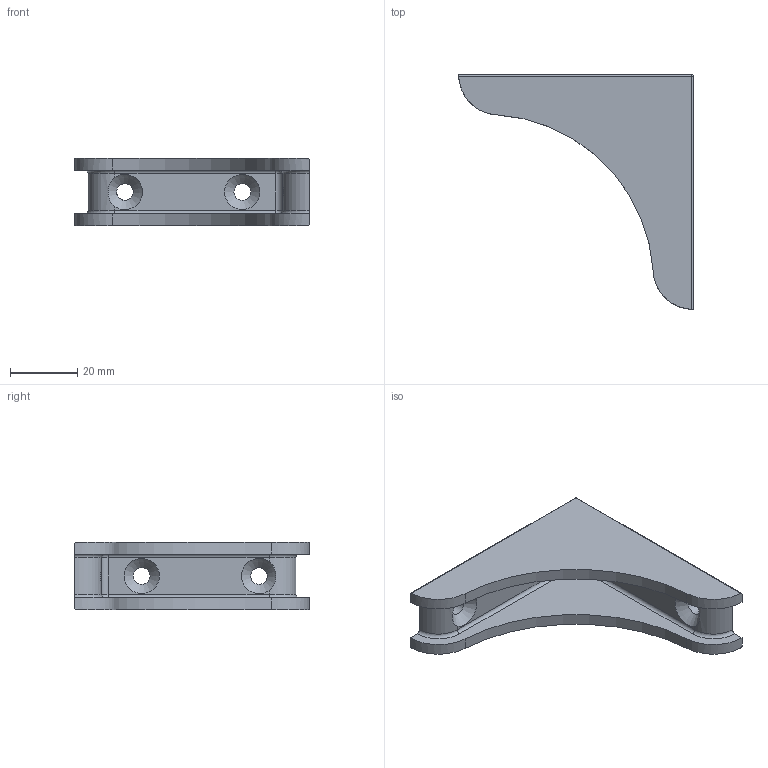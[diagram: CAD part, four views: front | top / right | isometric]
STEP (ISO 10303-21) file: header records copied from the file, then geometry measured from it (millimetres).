
FILE_DESCRIPTION (( 'STEP AP214' ), '1' );
FILE_NAME ('L19164.step', '2024-12-03T16:22:58', ( '' ), ( '' ), 'SwSTEP 2.0', 'SolidWorks 2023', '' );
FILE_SCHEMA (( 'AUTOMOTIVE_DESIGN' ));
Length unit declared in the file: millimetre
Products named in the file (1): L19164
Bounding box: 70 x 70 x 20 mm (x, y, z)
Volume: 20374.4 mm3; surface area: 13415.3 mm2
Topology: 1 solids, 1 shells, 80 faces, 221 edges, 137 vertices
Faces by surface type: cylinder 42, plane 24, torus 6, sphere 4, cone 4
Full cylindrical faces by diameter (mm): 5 x4
Entity records: 2589 total; most frequent: CARTESIAN_POINT 539, DIRECTION 444, ORIENTED_EDGE 412, EDGE_CURVE 206, AXIS2_PLACEMENT_3D 171, VERTEX_POINT 134, LINE 102, VECTOR 102
